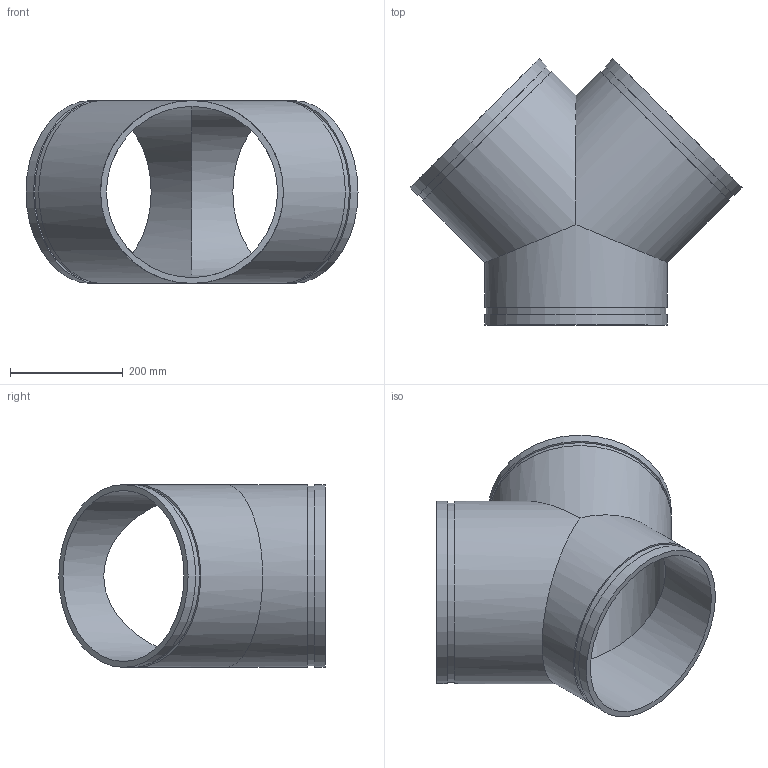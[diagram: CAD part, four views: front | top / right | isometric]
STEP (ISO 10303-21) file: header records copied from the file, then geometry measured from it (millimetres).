
FILE_DESCRIPTION(/* description */ ('This is default description.','CAx-IF Rec.Pracs.---Representation and Presentation of Product Manufacturing Information (PMI)---4.0---2014-10-13'),/* implementation_level */ '2;1');
FILE_NAME(/* name */ 'C:\Users\kkamble\AppData\Roaming\Autodesk\ApplicationPlugins\Back Up\Victaulic_IPS-Tee- Wye_ No 33 SWS (OGS)\Victaulic_IPS-Tee- Wye_ No 33 SWS (OGS)_12.stp',/* time_stamp */ '2020-09-16T22:08:36+06:00',/* author */ ('cgray'),/* organization */ ('Victaulic'),/* preprocessor_version */ 'ST-DEVELOPER v17.2',/* originating_system */ 'Autodesk Inventor 2019',/* authorisation */ '');
FILE_SCHEMA (('AP242_MANAGED_MODEL_BASED_3D_ENGINEERING_MIM_LF { 1 0 10303 442 1 1 4 }'));
Length unit declared in the file: inch
Products named in the file (1): 33 SWS-12.0
Bounding box: 588.21 x 471.9 x 323.85 mm (x, y, z)
Volume: 5005056.1 mm3; surface area: 1037797.3 mm2
Topology: 1 solids, 1 shells, 21 faces, 48 edges, 34 vertices
Faces by surface type: cylinder 12, plane 9
Full cylindrical faces by diameter (mm): 303.225 x3, 318.287 x3, 323.85 x6
Entity records: 787 total; most frequent: DIRECTION 154, CARTESIAN_POINT 121, ORIENTED_EDGE 96, AXIS2_PLACEMENT_3D 71, EDGE_CURVE 48, VERTEX_POINT 34, EDGE_LOOP 30, CIRCLE 26
